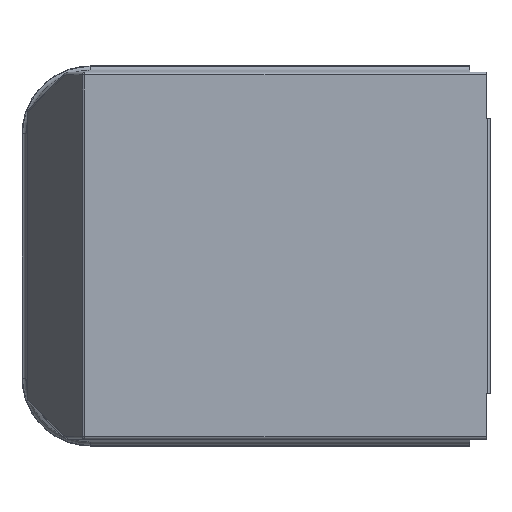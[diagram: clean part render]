
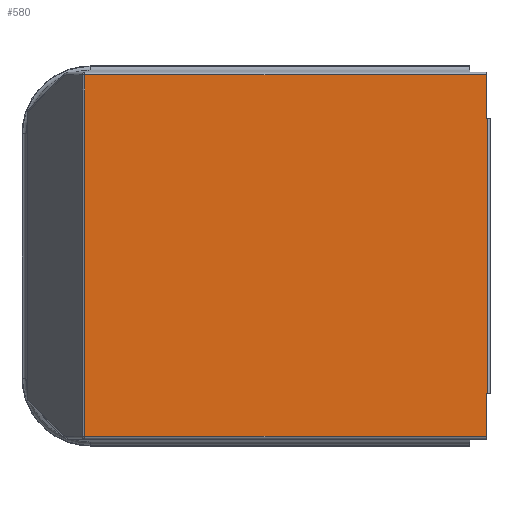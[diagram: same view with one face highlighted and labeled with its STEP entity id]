
A CAD part, left-side view. The second image highlights one B-rep face of the part: STEP entity #580.
In plain terms, the highlighted planar face has unit normal (-1, 0, 0) as drawn and (0, 0, 1) by its records, which use the part's own axes.
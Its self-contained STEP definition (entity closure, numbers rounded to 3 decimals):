
#29 = VECTOR ( 'NONE', #1675, 1000. ) ;
#92 = DIRECTION ( 'NONE',  ( 0., -1., 0. ) ) ;
#222 = VERTEX_POINT ( 'NONE', #1897 ) ;
#269 = CARTESIAN_POINT ( 'NONE',  ( -98.5, 95.964, 0.5 ) ) ;
#329 = CARTESIAN_POINT ( 'NONE',  ( -75., -121.5, 0.5 ) ) ;
#362 = ORIENTED_EDGE ( 'NONE', *, *, #1452, .T. ) ;
#387 = CARTESIAN_POINT ( 'NONE',  ( 98.5, 95.964, 0.5 ) ) ;
#580 = ADVANCED_FACE ( 'NONE', ( #4539 ), #2789, .T. ) ;
#660 = LINE ( 'NONE', #1768, #4432 ) ;
#663 = CARTESIAN_POINT ( 'NONE',  ( -98.5, 92.38, 0.5 ) ) ;
#714 = LINE ( 'NONE', #387, #3454 ) ;
#847 = CARTESIAN_POINT ( 'NONE',  ( -75., -126.5, 0.5 ) ) ;
#912 = CARTESIAN_POINT ( 'NONE',  ( -100., -127., 0.5 ) ) ;
#948 = VERTEX_POINT ( 'NONE', #3121 ) ;
#1016 = DIRECTION ( 'NONE',  ( -1., 0., 0. ) ) ;
#1027 = CARTESIAN_POINT ( 'NONE',  ( -75., -127., 0.5 ) ) ;
#1216 = VERTEX_POINT ( 'NONE', #2637 ) ;
#1236 = EDGE_CURVE ( 'NONE', #4219, #1216, #4451, .T. ) ;
#1323 = CARTESIAN_POINT ( 'NONE',  ( 98.5, 92.38, 0.5 ) ) ;
#1369 = DIRECTION ( 'NONE',  ( 0., -1., 0. ) ) ;
#1452 = EDGE_CURVE ( 'NONE', #3481, #3499, #660, .T. ) ;
#1461 = ORIENTED_EDGE ( 'NONE', *, *, #1236, .F. ) ;
#1675 = DIRECTION ( 'NONE',  ( 0., -1., 0. ) ) ;
#1768 = CARTESIAN_POINT ( 'NONE',  ( -100., 92.38, 0.5 ) ) ;
#1791 = EDGE_CURVE ( 'NONE', #4219, #948, #3386, .T. ) ;
#1882 = DIRECTION ( 'NONE',  ( 1., 0., 0. ) ) ;
#1897 = CARTESIAN_POINT ( 'NONE',  ( -98.5, -126.5, 0.5 ) ) ;
#1954 = VECTOR ( 'NONE', #4208, 1000. ) ;
#1986 = EDGE_CURVE ( 'NONE', #3973, #1216, #2973, .T. ) ;
#2163 = EDGE_CURVE ( 'NONE', #3499, #222, #3468, .T. ) ;
#2406 = CARTESIAN_POINT ( 'NONE',  ( -100., 92.091, 0.5 ) ) ;
#2559 = CARTESIAN_POINT ( 'NONE',  ( 75., -121.5, 0.5 ) ) ;
#2637 = CARTESIAN_POINT ( 'NONE',  ( 75., -127., 0.5 ) ) ;
#2697 = AXIS2_PLACEMENT_3D ( 'NONE', #2406, #4217, #3789 ) ;
#2717 = LINE ( 'NONE', #2779, #1954 ) ;
#2779 = CARTESIAN_POINT ( 'NONE',  ( -100., -126.5, 0.5 ) ) ;
#2789 = PLANE ( 'NONE',  #2697 ) ;
#2818 = ORIENTED_EDGE ( 'NONE', *, *, #3555, .T. ) ;
#2854 = VECTOR ( 'NONE', #1369, 1000. ) ;
#2919 = VECTOR ( 'NONE', #92, 1000. ) ;
#2973 = LINE ( 'NONE', #912, #4211 ) ;
#3034 = CARTESIAN_POINT ( 'NONE',  ( 75., -126.5, 0.5 ) ) ;
#3121 = CARTESIAN_POINT ( 'NONE',  ( 98.5, -126.5, 0.5 ) ) ;
#3172 = EDGE_CURVE ( 'NONE', #4546, #3973, #4596, .T. ) ;
#3204 = DIRECTION ( 'NONE',  ( 0., -1., 0. ) ) ;
#3251 = EDGE_CURVE ( 'NONE', #3481, #948, #714, .T. ) ;
#3307 = VECTOR ( 'NONE', #4105, 1000. ) ;
#3386 = LINE ( 'NONE', #4543, #3307 ) ;
#3454 = VECTOR ( 'NONE', #3204, 1000. ) ;
#3468 = LINE ( 'NONE', #269, #29 ) ;
#3481 = VERTEX_POINT ( 'NONE', #1323 ) ;
#3499 = VERTEX_POINT ( 'NONE', #663 ) ;
#3555 = EDGE_CURVE ( 'NONE', #222, #4546, #2717, .T. ) ;
#3730 = ORIENTED_EDGE ( 'NONE', *, *, #3251, .F. ) ;
#3789 = DIRECTION ( 'NONE',  ( 0., -1., 0. ) ) ;
#3966 = ORIENTED_EDGE ( 'NONE', *, *, #1791, .T. ) ;
#3973 = VERTEX_POINT ( 'NONE', #1027 ) ;
#4081 = ORIENTED_EDGE ( 'NONE', *, *, #3172, .T. ) ;
#4105 = DIRECTION ( 'NONE',  ( 1., 0., 0. ) ) ;
#4200 = ORIENTED_EDGE ( 'NONE', *, *, #1986, .T. ) ;
#4208 = DIRECTION ( 'NONE',  ( 1., 0., 0. ) ) ;
#4211 = VECTOR ( 'NONE', #1882, 1000. ) ;
#4217 = DIRECTION ( 'NONE',  ( 0., 0., 1. ) ) ;
#4219 = VERTEX_POINT ( 'NONE', #3034 ) ;
#4224 = ORIENTED_EDGE ( 'NONE', *, *, #2163, .T. ) ;
#4432 = VECTOR ( 'NONE', #1016, 1000. ) ;
#4444 = EDGE_LOOP ( 'NONE', ( #3730, #362, #4224, #2818, #4081, #4200, #1461, #3966 ) ) ;
#4451 = LINE ( 'NONE', #2559, #2919 ) ;
#4539 = FACE_OUTER_BOUND ( 'NONE', #4444, .T. ) ;
#4543 = CARTESIAN_POINT ( 'NONE',  ( -100., -126.5, 0.5 ) ) ;
#4546 = VERTEX_POINT ( 'NONE', #847 ) ;
#4596 = LINE ( 'NONE', #329, #2854 ) ;
